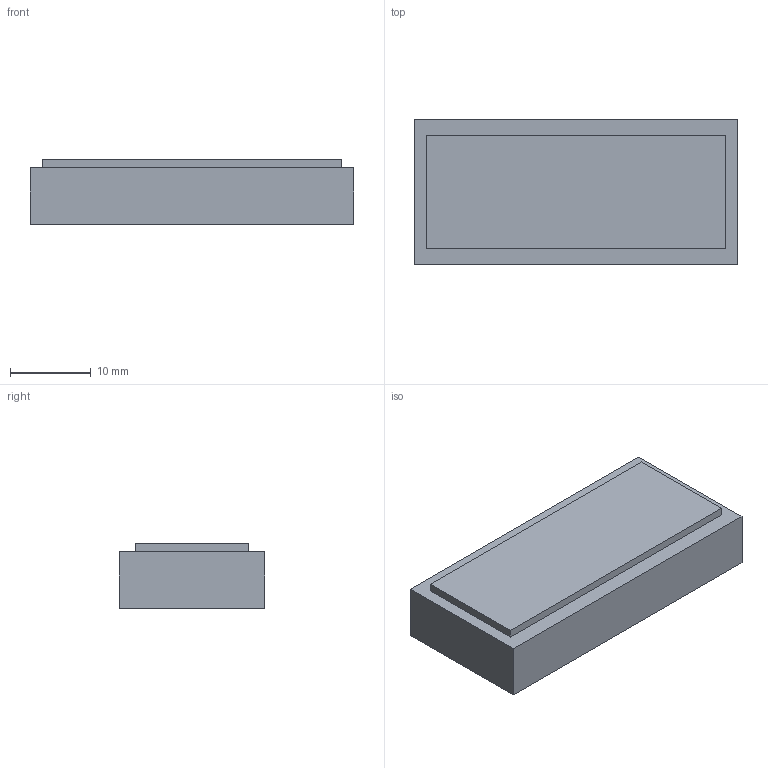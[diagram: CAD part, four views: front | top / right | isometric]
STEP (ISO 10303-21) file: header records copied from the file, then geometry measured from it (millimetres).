
FILE_DESCRIPTION( ( '' ), '1' );
FILE_NAME( '//partserver001.servicenet/client_exchange/iodir/jobs/output/wkb24703937_no0/STEP/e21115_2_03.stp', '2010-05-03T10:29:26', ( '' ), ( '' ), ' ', ' ', ' ' );
FILE_SCHEMA( ( 'CONFIG_CONTROL_DESIGN' ) );
Length unit declared in the file: millimetre
Products named in the file (1): 1
Bounding box: 40 x 18 x 8 mm (x, y, z)
Volume: 5558 mm3; surface area: 2354 mm2
Topology: 1 solids, 1 shells, 11 faces, 24 edges, 16 vertices
Faces by surface type: plane 11
Entity records: 342 total; most frequent: CARTESIAN_POINT 52, DIRECTION 48, ORIENTED_EDGE 48, EDGE_CURVE 24, LINE 24, VECTOR 24, VERTEX_POINT 16, AXIS2_PLACEMENT_3D 12
